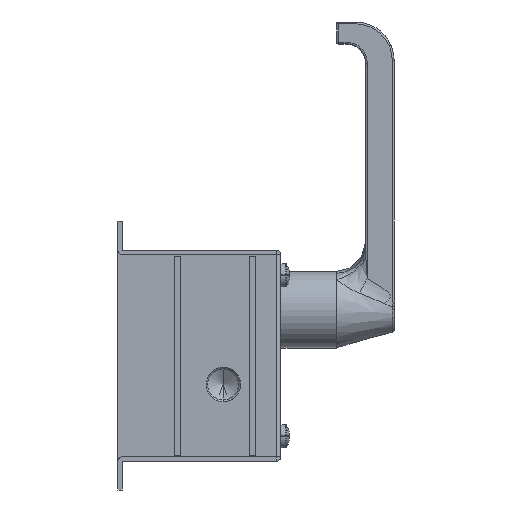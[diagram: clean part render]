
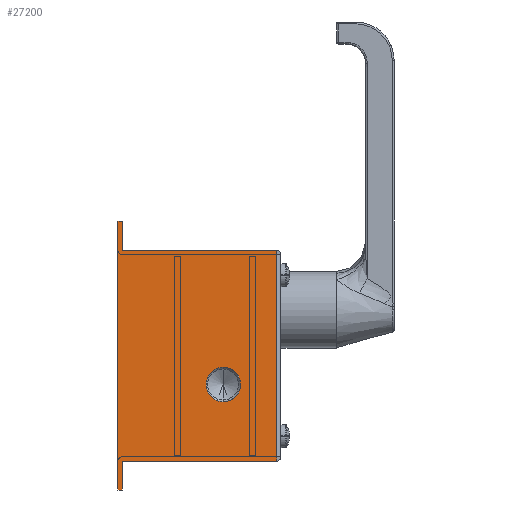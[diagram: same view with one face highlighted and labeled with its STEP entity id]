
A CAD part, front view. The second image highlights one B-rep face of the part: STEP entity #27200.
In plain terms, the highlighted planar face has unit normal (0, -1, 0).
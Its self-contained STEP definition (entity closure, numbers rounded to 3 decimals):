
#16723 = VERTEX_POINT ( 'NONE', #14053 ) ;
#530 = CARTESIAN_POINT ( 'NONE',  ( 0., -95., 46. ) ) ;
#17039 = EDGE_CURVE ( 'NONE', #17882, #16723, #14609, .T. ) ;
#17117 = ORIENTED_EDGE ( 'NONE', *, *, #24915, .F. ) ;
#17133 = CIRCLE ( 'NONE', #17134, 9. ) ;
#17134 = AXIS2_PLACEMENT_3D ( 'NONE', #17135, #17136, #17152 ) ;
#17135 = CARTESIAN_POINT ( 'NONE',  ( 55., -95., -39. ) ) ;
#17136 = DIRECTION ( 'NONE',  ( 0., -1., 0. ) ) ;
#17152 = DIRECTION ( 'NONE',  ( 0., 0., 1. ) ) ;
#860 = EDGE_CURVE ( 'NONE', #18970, #26557, #28724, .T. ) ;
#33639 = CARTESIAN_POINT ( 'NONE',  ( 0., -95., -94. ) ) ;
#17322 = CARTESIAN_POINT ( 'NONE',  ( 82.7, -95., 28.7 ) ) ;
#1125 = LINE ( 'NONE', #1151, #1152 ) ;
#1151 = CARTESIAN_POINT ( 'NONE',  ( 1.15, -95., 46. ) ) ;
#1152 = VECTOR ( 'NONE', #1153, 1000. ) ;
#1153 = DIRECTION ( 'NONE',  ( -1., 0., 0. ) ) ;
#34069 = LINE ( 'NONE', #34070, #34071 ) ;
#34070 = CARTESIAN_POINT ( 'NONE',  ( 0., -95., -24. ) ) ;
#34071 = VECTOR ( 'NONE', #34098, 1000. ) ;
#34098 = DIRECTION ( 'NONE',  ( 0., 0., -1. ) ) ;
#17857 = ORIENTED_EDGE ( 'NONE', *, *, #860, .F. ) ;
#17882 = VERTEX_POINT ( 'NONE', #15872 ) ;
#18211 = EDGE_CURVE ( 'NONE', #26557, #17882, #16260, .T. ) ;
#34951 = CARTESIAN_POINT ( 'NONE',  ( 2.3, -95., 46. ) ) ;
#18840 = ORIENTED_EDGE ( 'NONE', *, *, #18211, .F. ) ;
#18890 = EDGE_CURVE ( 'NONE', #26631, #26961, #17133, .T. ) ;
#18970 = VERTEX_POINT ( 'NONE', #17322 ) ;
#19588 = ORIENTED_EDGE ( 'NONE', *, *, #17039, .F. ) ;
#20200 = LINE ( 'NONE', #20201, #20202 ) ;
#20201 = CARTESIAN_POINT ( 'NONE',  ( 1.15, -95., -94. ) ) ;
#20202 = VECTOR ( 'NONE', #20203, 1000. ) ;
#20203 = DIRECTION ( 'NONE',  ( 1., 0., 0. ) ) ;
#20329 = ORIENTED_EDGE ( 'NONE', *, *, #22307, .F. ) ;
#21062 = EDGE_CURVE ( 'NONE', #4917, #24549, #20200, .T. ) ;
#4917 = VERTEX_POINT ( 'NONE', #33639 ) ;
#21559 = ORIENTED_EDGE ( 'NONE', *, *, #21062, .T. ) ;
#5430 = EDGE_CURVE ( 'NONE', #7473, #4917, #34069, .T. ) ;
#22036 = LINE ( 'NONE', #22037, #22038 ) ;
#22037 = CARTESIAN_POINT ( 'NONE',  ( 2.3, -95., -24. ) ) ;
#22038 = VECTOR ( 'NONE', #22039, 1000. ) ;
#22039 = DIRECTION ( 'NONE',  ( 0., 0., -1. ) ) ;
#22307 = EDGE_CURVE ( 'NONE', #16723, #24549, #22036, .T. ) ;
#6181 = VERTEX_POINT ( 'NONE', #34951 ) ;
#22570 = ORIENTED_EDGE ( 'NONE', *, *, #7985, .T. ) ;
#6275 = ORIENTED_EDGE ( 'NONE', *, *, #5430, .T. ) ;
#23290 = ORIENTED_EDGE ( 'NONE', *, *, #25403, .F. ) ;
#7473 = VERTEX_POINT ( 'NONE', #530 ) ;
#24039 = ORIENTED_EDGE ( 'NONE', *, *, #27090, .F. ) ;
#7985 = EDGE_CURVE ( 'NONE', #6181, #7473, #1125, .T. ) ;
#24549 = VERTEX_POINT ( 'NONE', #24794 ) ;
#24781 = EDGE_LOOP ( 'NONE', ( #24039, #23290, #22570, #6275, #21559, #20329, #19588, #18840, #17857, #17117 ) ) ;
#24794 = CARTESIAN_POINT ( 'NONE',  ( 2.3, -95., -94. ) ) ;
#24915 = EDGE_CURVE ( 'NONE', #26188, #18970, #25330, .T. ) ;
#25134 = ORIENTED_EDGE ( 'NONE', *, *, #18890, .F. ) ;
#25330 = LINE ( 'NONE', #25331, #25332 ) ;
#25331 = CARTESIAN_POINT ( 'NONE',  ( 82.7, -95., -24. ) ) ;
#25332 = VECTOR ( 'NONE', #25333, 1000. ) ;
#25333 = DIRECTION ( 'NONE',  ( 0., 0., -1. ) ) ;
#25403 = EDGE_CURVE ( 'NONE', #6181, #28719, #25950, .T. ) ;
#25870 = ORIENTED_EDGE ( 'NONE', *, *, #27283, .F. ) ;
#25950 = LINE ( 'NONE', #25960, #25961 ) ;
#25960 = CARTESIAN_POINT ( 'NONE',  ( 2.3, -95., -24. ) ) ;
#25961 = VECTOR ( 'NONE', #25962, 1000. ) ;
#25962 = DIRECTION ( 'NONE',  ( 0., 0., -1. ) ) ;
#26188 = VERTEX_POINT ( 'NONE', #26989 ) ;
#26557 = VERTEX_POINT ( 'NONE', #27431 ) ;
#26631 = VERTEX_POINT ( 'NONE', #27514 ) ;
#26862 = EDGE_LOOP ( 'NONE', ( #25870, #25134 ) ) ;
#26961 = VERTEX_POINT ( 'NONE', #28064 ) ;
#26989 = CARTESIAN_POINT ( 'NONE',  ( 82.7, -95., 31. ) ) ;
#27090 = EDGE_CURVE ( 'NONE', #28719, #26188, #28325, .T. ) ;
#27200 = ADVANCED_FACE ( 'NONE', ( #28531, #28532 ), #28533, .F. ) ;
#27283 = EDGE_CURVE ( 'NONE', #26961, #26631, #28663, .T. ) ;
#27431 = CARTESIAN_POINT ( 'NONE',  ( 82.7, -95., -76.7 ) ) ;
#27514 = CARTESIAN_POINT ( 'NONE',  ( 55., -95., -48. ) ) ;
#28064 = CARTESIAN_POINT ( 'NONE',  ( 55., -95., -30. ) ) ;
#28325 = LINE ( 'NONE', #28326, #28327 ) ;
#28326 = CARTESIAN_POINT ( 'NONE',  ( 41.35, -95., 31. ) ) ;
#28327 = VECTOR ( 'NONE', #28328, 1000. ) ;
#28328 = DIRECTION ( 'NONE',  ( 1., 0., 0. ) ) ;
#28531 = FACE_BOUND ( 'NONE', #26862, .T. ) ;
#28532 = FACE_OUTER_BOUND ( 'NONE', #24781, .T. ) ;
#28533 = PLANE ( 'NONE',  #28534 ) ;
#28534 = AXIS2_PLACEMENT_3D ( 'NONE', #28535, #28563, #28564 ) ;
#28535 = CARTESIAN_POINT ( 'NONE',  ( 84.354, -95., 48.8 ) ) ;
#28563 = DIRECTION ( 'NONE',  ( 0., 1., 0. ) ) ;
#28564 = DIRECTION ( 'NONE',  ( 0., 0., -1. ) ) ;
#28663 = CIRCLE ( 'NONE', #28664, 9. ) ;
#28664 = AXIS2_PLACEMENT_3D ( 'NONE', #28665, #28666, #28667 ) ;
#28665 = CARTESIAN_POINT ( 'NONE',  ( 55., -95., -39. ) ) ;
#28666 = DIRECTION ( 'NONE',  ( 0., -1., 0. ) ) ;
#28667 = DIRECTION ( 'NONE',  ( 0., 0., 1. ) ) ;
#28719 = VERTEX_POINT ( 'NONE', #31178 ) ;
#28724 = LINE ( 'NONE', #28725, #28726 ) ;
#28725 = CARTESIAN_POINT ( 'NONE',  ( 82.7, -95., -24. ) ) ;
#28726 = VECTOR ( 'NONE', #28727, 1000. ) ;
#28727 = DIRECTION ( 'NONE',  ( 0., 0., -1. ) ) ;
#14053 = CARTESIAN_POINT ( 'NONE',  ( 2.3, -95., -79. ) ) ;
#14609 = LINE ( 'NONE', #14610, #14611 ) ;
#14610 = CARTESIAN_POINT ( 'NONE',  ( 41.35, -95., -79. ) ) ;
#14611 = VECTOR ( 'NONE', #14612, 1000. ) ;
#14612 = DIRECTION ( 'NONE',  ( -1., 0., 0. ) ) ;
#31178 = CARTESIAN_POINT ( 'NONE',  ( 2.3, -95., 31. ) ) ;
#15872 = CARTESIAN_POINT ( 'NONE',  ( 82.7, -95., -79. ) ) ;
#16260 = LINE ( 'NONE', #16261, #16268 ) ;
#16261 = CARTESIAN_POINT ( 'NONE',  ( 82.7, -95., -24. ) ) ;
#16268 = VECTOR ( 'NONE', #16269, 1000. ) ;
#16269 = DIRECTION ( 'NONE',  ( 0., 0., -1. ) ) ;
